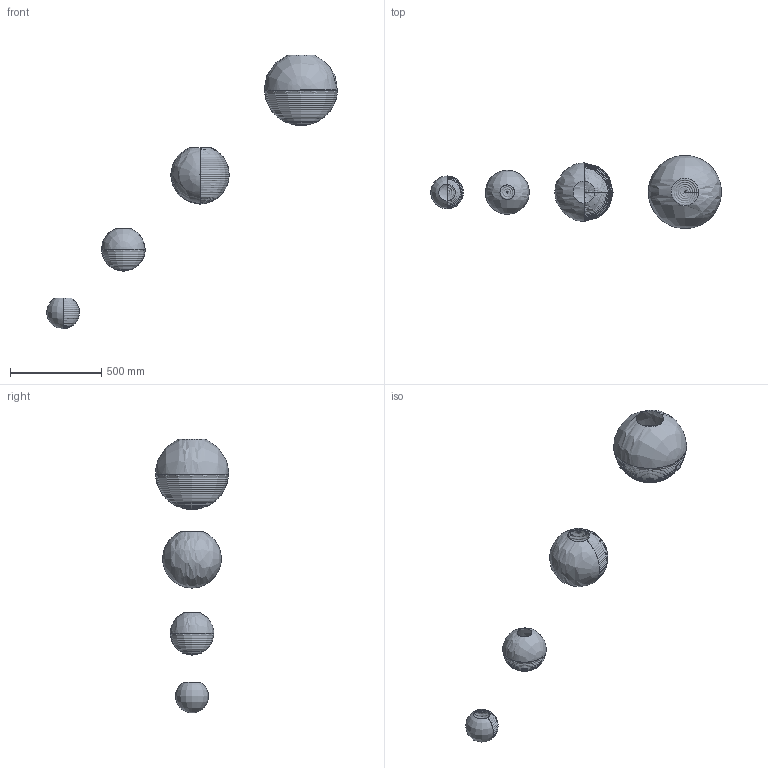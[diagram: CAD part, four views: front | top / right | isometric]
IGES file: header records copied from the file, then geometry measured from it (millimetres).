
Global section: file name: /Volumes/Team/Clients/Pulpo/2017 Stellar : Selune/data-export/20180723_Pulpo_Stellar_studioSebastianHerkner.igs; preprocessor: Trout Lake IGES 012 Nov 16 2016; date: 180723.121534; units: millimetre
Bounding box: 1592.6 x 400 x 1498.25 mm (x, y, z)
Surface area: 1122569.6 mm2 (no closed solid volume)
Topology: 0 solids, 0 shells, 123 faces, 941 edges, 930 vertices
Faces by surface type: bspline 123
